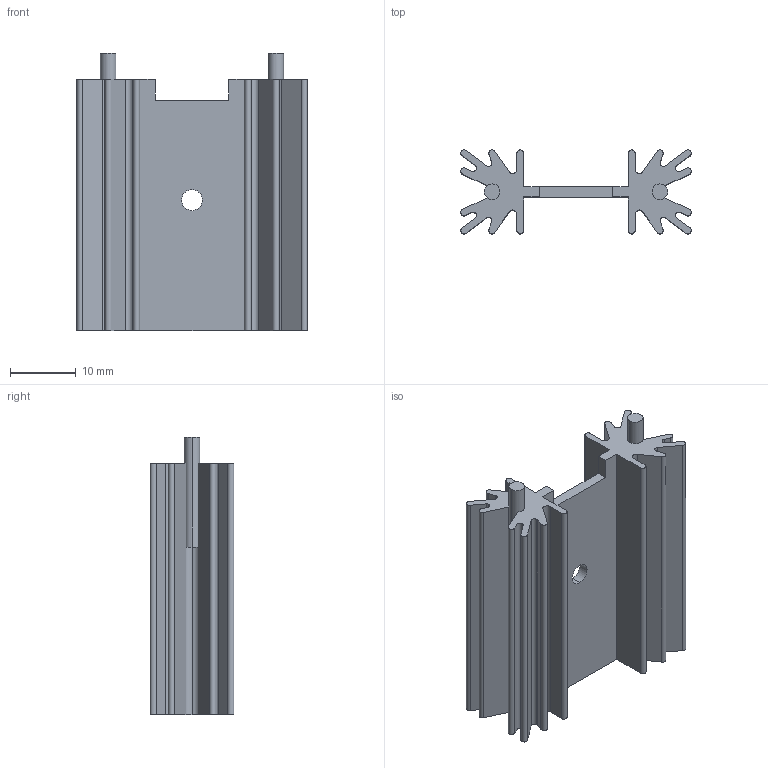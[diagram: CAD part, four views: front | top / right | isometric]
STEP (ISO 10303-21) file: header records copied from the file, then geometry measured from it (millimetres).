
FILE_DESCRIPTION (( 'STEP AP214' ), '1' );
FILE_NAME ('513102B02500G.STEP', '2019-01-26T16:43:49', ( '' ), ( '' ), 'SwSTEP 2.0', 'SolidWorks 2017', '' );
FILE_SCHEMA (( 'AUTOMOTIVE_DESIGN' ));
Length unit declared in the file: millimetre
Products named in the file (1): 513102B02500G
Bounding box: 34.92 x 12.7 x 42.06 mm (x, y, z)
Volume: 6286.7 mm3; surface area: 7420.2 mm2
Topology: 3 solids, 3 shells, 91 faces, 255 edges, 170 vertices
Faces by surface type: cylinder 47, plane 44
Entity records: 3019 total; most frequent: DIRECTION 533, CARTESIAN_POINT 517, ORIENTED_EDGE 510, EDGE_CURVE 255, AXIS2_PLACEMENT_3D 186, VERTEX_POINT 170, VECTOR 161, LINE 161
